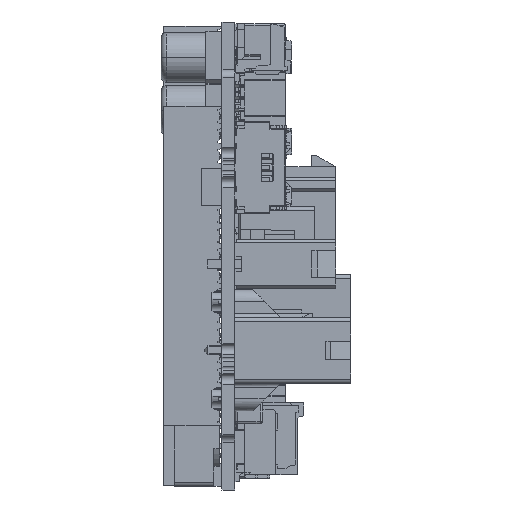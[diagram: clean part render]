
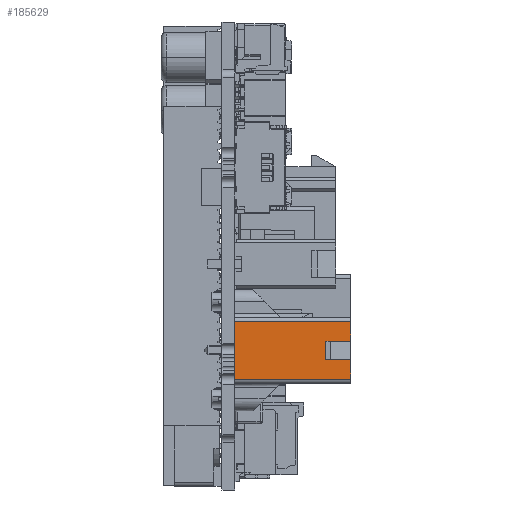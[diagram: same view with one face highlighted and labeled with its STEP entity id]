
A CAD part, left-side view. The second image highlights one B-rep face of the part: STEP entity #185629.
In plain terms, the highlighted planar face has unit normal (-1, 0, 0) as drawn and (0, 1, 0) by its records, which use the part's own axes.
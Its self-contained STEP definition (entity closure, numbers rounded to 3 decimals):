
#179355=DIRECTION('',(-1.,0.,0.));
#179356=VECTOR('',#179355,2.3);
#179357=CARTESIAN_POINT('',(-20.223,8.7,
1.056));
#179358=LINE('',#179357,#179356);
#179397=DIRECTION('',(0.,0.,1.));
#179398=VECTOR('',#179397,3.201);
#179399=CARTESIAN_POINT('',(-20.223,8.7,
-2.145));
#179400=LINE('',#179399,#179398);
#179411=DIRECTION('',(1.,0.,0.));
#179412=VECTOR('',#179411,2.525);
#179413=CARTESIAN_POINT('',(-20.223,8.7,
-2.145));
#179414=LINE('',#179413,#179412);
#179418=DIRECTION('',(-1.,0.,0.));
#179419=VECTOR('',#179418,7.349);
#179420=CARTESIAN_POINT('',(-17.699,8.7,
12.654));
#179421=LINE('',#179420,#179419);
#179425=DIRECTION('',(1.,0.,0.));
#179426=VECTOR('',#179425,2.525);
#179427=CARTESIAN_POINT('',(-25.049,8.7,
-2.146));
#179428=LINE('',#179427,#179426);
#181230=DIRECTION('',(0.,0.,1.));
#181231=VECTOR('',#181230,14.8);
#181232=CARTESIAN_POINT('',(-25.049,8.7,
-2.146));
#181233=LINE('',#181232,#181231);
#181237=DIRECTION('',(0.,0.,-1.));
#181238=VECTOR('',#181237,14.8);
#181239=CARTESIAN_POINT('',(-17.699,8.7,
12.654));
#181240=LINE('',#181239,#181238);
#183197=DIRECTION('',(0.,0.,-1.));
#183198=VECTOR('',#183197,3.201);
#183199=CARTESIAN_POINT('',(-22.523,8.7,
1.056));
#183200=LINE('',#183199,#183198);
#184710=CARTESIAN_POINT('',(-20.223,8.7,
1.056));
#184711=VERTEX_POINT('',#184710);
#184712=CARTESIAN_POINT('',(-22.523,8.7,
1.056));
#184713=VERTEX_POINT('',#184712);
#184718=CARTESIAN_POINT('',(-20.223,8.7,
-2.145));
#184719=VERTEX_POINT('',#184718);
#184720=CARTESIAN_POINT('',(-17.699,8.7,
-2.146));
#184721=VERTEX_POINT('',#184720);
#184722=CARTESIAN_POINT('',(-17.699,8.7,
12.654));
#184723=VERTEX_POINT('',#184722);
#184724=CARTESIAN_POINT('',(-25.048,8.7,
12.654));
#184725=VERTEX_POINT('',#184724);
#184726=CARTESIAN_POINT('',(-25.049,8.7,
-2.146));
#184727=VERTEX_POINT('',#184726);
#184728=CARTESIAN_POINT('',(-22.523,8.7,
-2.145));
#184729=VERTEX_POINT('',#184728);
#185608=CARTESIAN_POINT('',(-18.199,8.7,
14.067));
#185609=DIRECTION('',(0.,1.,0.));
#185610=DIRECTION('',(-1.,0.,0.));
#185611=AXIS2_PLACEMENT_3D('',#185608,#185609,#185610);
#185612=PLANE('',#185611);
#185614=ORIENTED_EDGE('',*,*,#185613,.T.);
#185616=ORIENTED_EDGE('',*,*,#185615,.F.);
#185618=ORIENTED_EDGE('',*,*,#185617,.T.);
#185620=ORIENTED_EDGE('',*,*,#185619,.F.);
#185622=ORIENTED_EDGE('',*,*,#185621,.T.);
#185624=ORIENTED_EDGE('',*,*,#185623,.F.);
#185625=ORIENTED_EDGE('',*,*,#185572,.F.);
#185626=ORIENTED_EDGE('',*,*,#185599,.F.);
#185627=EDGE_LOOP('',(#185614,#185616,#185618,#185620,#185622,#185624,#185625,
#185626));
#185628=FACE_OUTER_BOUND('',#185627,.F.);
#185629=ADVANCED_FACE('',(#185628),#185612,.T.);
#185572=EDGE_CURVE('',#184711,#184713,#179358,.T.);
#185599=EDGE_CURVE('',#184719,#184711,#179400,.T.);
#185613=EDGE_CURVE('',#184719,#184721,#179414,.T.);
#185615=EDGE_CURVE('',#184723,#184721,#181240,.T.);
#185617=EDGE_CURVE('',#184723,#184725,#179421,.T.);
#185619=EDGE_CURVE('',#184727,#184725,#181233,.T.);
#185621=EDGE_CURVE('',#184727,#184729,#179428,.T.);
#185623=EDGE_CURVE('',#184713,#184729,#183200,.T.);
